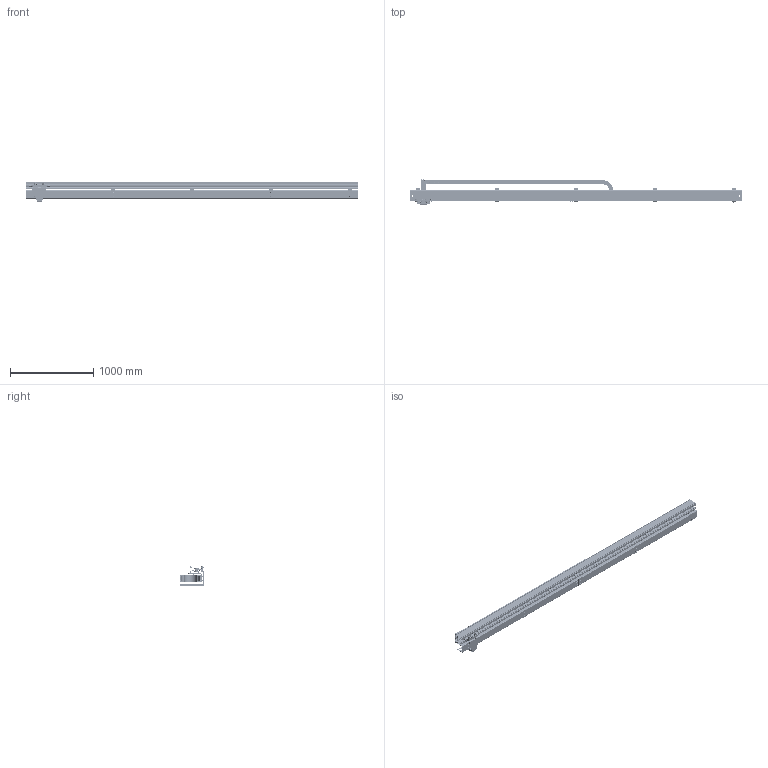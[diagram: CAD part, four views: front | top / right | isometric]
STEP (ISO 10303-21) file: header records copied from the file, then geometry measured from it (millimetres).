
FILE_DESCRIPTION (( 'STEP AP203' ), '1' );
FILE_NAME ('900.060.100.4000.STEP', '2018-02-27T09:04:25', ( '' ), ( '' ), 'SwSTEP 2.0', 'SolidWorks 2016', '' );
FILE_SCHEMA (( 'CONFIG_CONTROL_DESIGN' ));
Length unit declared in the file: millimetre
Products named in the file (33): GRANI A PUNTA CONICA UNI 5927_M6x16 UNI 5927; 084.301.000 VITI ALUSIC_084.301.011; DADO ESAGONALE M20 AUTOBLOCCANTE_M20 UNI7473; 900.200.004-2; SR435-4000-003; DADI ESAGONALI AUTOBLOCCANTI UNI 7473_M6 UNI 7473; 084.301.000 VITI ALUSIC_084.301.001; 900.200.002-1; RONDELLE UNI 6592_8.4x17 UNI 6592; CUSCINETTI A SFERE_6002-2Z; 900.060.1000.4000-L; SR435-4000-005; 084.301.000 VITI ALUSIC_084.301.003; RONDELLE UNI 6592 INOX_6.4x12.5 UNI 6592 INOX; PUFFER FEMMINA_M6; 900.060.100.103_Default<A macchina>; 900.200.003-2; RONDELLE UNI 6592_6.4x12.5 UNI 6592; circlip for shafts normal_din_Circlip DIN 471 - 8 x 0.8; VITI TE UNI 5739_M20X60 UNI 5739; VITI TESTA BOMBATA ISO 730 INOX_M6x20 ISO 7380 INOX; PROFILO 110x90_4000<A macchina>; VITI TE UNI 5739_M6x40 UNI 5739; 900.060.100.4000; CUSCINETTI A SFERE_686-ZZ; SR435-4000-001; 084.302.000 DADI ALUSIC 13x13-1_084.302.009; 900.060.100.102; SR435-4000-004; 900.200.005; SR435MI060100-A435M060K1-4000; 900.200.101-1; SR435-4000-002
Assembly tree (170 placements, depth 3):
  900.060.100.4000
    SR435MI060100-A435M060K1-4000
      SR435-4000-001
      SR435-4000-002
      SR435-4000-003
      SR435-4000-004
      SR435-4000-005
    900.060.100.102  x9
    PROFILO 110x90_4000<A macchina>
    900.200.101-1
      900.200.003-2  x8
      900.200.004-2  x2
      900.200.005  x4
      CUSCINETTI A SFERE_6002-2Z  x8
      circlip for shafts normal_din_Circlip DIN 471 - 8 x 0.8  x8
      900.200.002-1
      RONDELLE UNI 6592 INOX_6.4x12.5 UNI 6592 INOX  x4
      CUSCINETTI A SFERE_686-ZZ  x4
      PUFFER FEMMINA_M6  x2
      GRANI A PUNTA CONICA UNI 5927_M6x16 UNI 5927  x2
      VITI TE UNI 5739_M6x40 UNI 5739  x2
    900.060.100.103_Default<A macchina>
    RONDELLE UNI 6592_8.4x17 UNI 6592  x10
    084.301.000 VITI ALUSIC_084.301.003  x10
    084.302.000 DADI ALUSIC 13x13-1_084.302.009  x10
    VITI TESTA BOMBATA ISO 730 INOX_M6x20 ISO 7380 INOX  x10
    RONDELLE UNI 6592_6.4x12.5 UNI 6592  x36
    DADI ESAGONALI AUTOBLOCCANTI UNI 7473_M6 UNI 7473  x18
    084.301.000 VITI ALUSIC_084.301.011  x4
    084.301.000 VITI ALUSIC_084.301.001  x4
    VITI TE UNI 5739_M20X60 UNI 5739  x2
    DADO ESAGONALE M20 AUTOBLOCCANTE_M20 UNI7473  x2
    900.060.1000.4000-L
Bounding box: 4000 x 301.1 x 241 mm (x, y, z)
Volume: 15183445.9 mm3; surface area: 9935531.5 mm2
Topology: 180 solids, 180 shells, 7731 faces, 19653 edges, 12511 vertices
Faces by surface type: plane 3213, cylinder 3010, cone 689, bspline 411, torus 354, sphere 54
Entity records: 194916 total; most frequent: CARTESIAN_POINT 53886, ORIENTED_EDGE 28610, DIRECTION 27916, EDGE_CURVE 14305, AXIS2_PLACEMENT_3D 10127, VERTEX_POINT 9181, VECTOR 7662, LINE 7662
